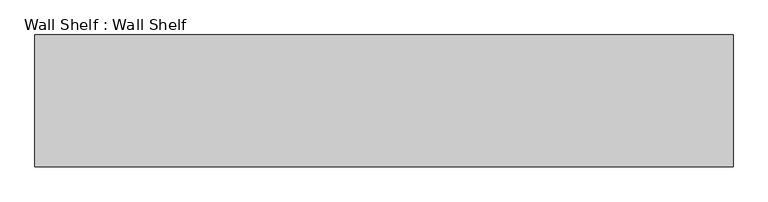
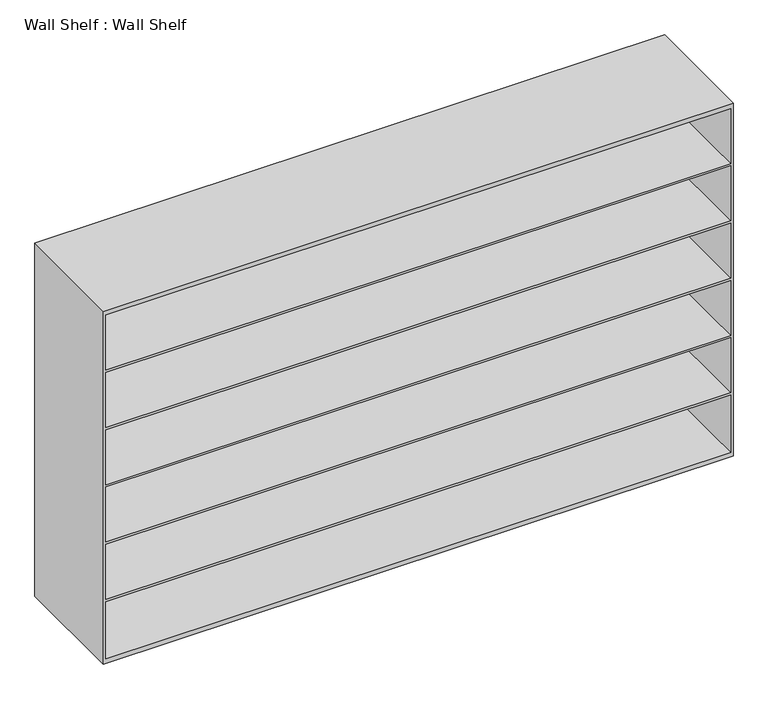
"""IFC4 building model written with IfcOpenShell, lengths in millimetres: furniture geometry, Wall Shelf : Wall Shelf."""

from ifc_helpers import new_model, si_unit, frame, origin, place, context, project, spatial, circle_curve, source, transform, mapped, element, save
from ifc_brep_helpers import plane_surface, cylinder_surface, advanced_brep


def wall_shelf_wall_shelf_4cddb453(model_context):
    return source(origin(), model_context, "Body", "AdvancedBrep", [
        advanced_brep(
        [(1616.075, 304.8, 1930.4), (-1616.075, 304.8, 1930.4), (-1616.075, -304.8, 1930.4), (1616.075, -304.8, 1930.4), (1603.375, -304.8, 1905.0), (-1603.375, -304.8, 1905.0), (-1603.375, 292.1, 1905.0), (1603.375, 292.1, 1905.0), (1616.075, 304.8, 38.1), (1616.075, 304.8, 12.7), (-1616.075, 304.8, 12.7), (-1616.075, 304.8, 38.1), (-1616.075, -304.8, 12.7), (1616.075, -304.8, 12.7), (1603.375, -304.8, 1606.55), (-1603.375, -304.8, 1606.55), (1603.375, -304.8, 38.1), (-1603.375, -304.8, 38.1), (-1603.375, -304.8, 349.25), (1603.375, -304.8, 349.25), (-1603.375, -304.8, 1593.85), (1603.375, -304.8, 1593.85), (1603.375, -304.8, 1295.4), (-1603.375, -304.8, 1295.4), (-1603.375, -304.8, 1282.7), (1603.375, -304.8, 1282.7), (1603.375, -304.8, 984.25), (-1603.375, -304.8, 984.25), (-1603.375, -304.8, 971.55), (1603.375, -304.8, 971.55), (1603.375, -304.8, 673.1), (-1603.375, -304.8, 673.1), (-1603.375, -304.8, 660.4), (1603.375, -304.8, 660.4), (1603.375, -304.8, 361.95), (-1603.375, -304.8, 361.95), (-1590.675, 254.0, 12.7), (-1539.875, 254.0, 12.7), (1539.875, 254.0, 12.7), (1590.675, 254.0, 12.7), (-1590.675, -254.0, 12.7), (-1539.875, -254.0, 12.7), (1539.875, -254.0, 12.7), (1590.675, -254.0, 12.7), (-1603.375, 292.1, 1606.55), (-1603.375, 292.1, 1295.4), (-1603.375, 292.1, 1593.85), (-1603.375, 292.1, 984.25), (-1603.375, 292.1, 1282.7), (-1603.375, 292.1, 673.1), (-1603.375, 292.1, 971.55), (-1603.375, 292.1, 361.95), (-1603.375, 292.1, 660.4), (-1603.375, 292.1, 38.1), (-1603.375, 292.1, 349.25), (1603.375, 292.1, 1606.55), (1603.375, 292.1, 1295.4), (1603.375, 292.1, 1593.85), (1603.375, 292.1, 984.25), (1603.375, 292.1, 1282.7), (1603.375, 292.1, 673.1), (1603.375, 292.1, 971.55), (1603.375, 292.1, 361.95), (1603.375, 292.1, 660.4), (1603.375, 292.1, 38.1), (1603.375, 292.1, 349.25), (-1590.675, 254.0, 0.0), (-1539.875, 254.0, 0.0), (1539.875, 254.0, 0.0), (1590.675, 254.0, 0.0), (-1590.675, -254.0, 0.0), (-1539.875, -254.0, 0.0), (1539.875, -254.0, 0.0), (1590.675, -254.0, 0.0)],
        [
            (0, 1),
            (1, 2),
            (2, 3),
            (3, 0),
            (4, 5),
            (5, 6),
            (6, 7),
            (7, 4),
            (0, 8),
            (8, 9),
            (9, 10),
            (10, 11),
            (11, 1),
            (10, 12),
            (12, 2),
            (12, 13),
            (13, 3),
            (4, 14),
            (14, 15),
            (15, 5),
            (16, 17),
            (17, 18),
            (18, 19),
            (19, 16),
            (20, 21),
            (21, 22),
            (22, 23),
            (23, 20),
            (24, 25),
            (25, 26),
            (26, 27),
            (27, 24),
            (28, 29),
            (29, 30),
            (30, 31),
            (31, 28),
            (32, 33),
            (33, 34),
            (34, 35),
            (35, 32),
            (13, 9),
            (36, 37, circle_curve(frame((-1565.275, 254.0, 12.7), z_axis=(0.0, 0.0, 1.0), x_axis=(1.0, 0.0, 0.0)), 25.4)),
            (37, 36, circle_curve(frame((-1565.275, 254.0, 12.7), z_axis=(0.0, 0.0, 1.0), x_axis=(1.0, 0.0, 0.0)), 25.4)),
            (38, 39, circle_curve(frame((1565.275, 254.0, 12.7), z_axis=(0.0, 0.0, 1.0), x_axis=(1.0, 0.0, 0.0)), 25.4)),
            (39, 38, circle_curve(frame((1565.275, 254.0, 12.7), z_axis=(0.0, 0.0, 1.0), x_axis=(1.0, 0.0, 0.0)), 25.4)),
            (40, 41, circle_curve(frame((-1565.275, -254.0, 12.7), z_axis=(0.0, 0.0, 1.0), x_axis=(1.0, 0.0, 0.0)), 25.4)),
            (41, 40, circle_curve(frame((-1565.275, -254.0, 12.7), z_axis=(0.0, 0.0, 1.0), x_axis=(1.0, 0.0, 0.0)), 25.4)),
            (42, 43, circle_curve(frame((1565.275, -254.0, 12.7), z_axis=(0.0, 0.0, 1.0), x_axis=(1.0, 0.0, 0.0)), 25.4)),
            (43, 42, circle_curve(frame((1565.275, -254.0, 12.7), z_axis=(0.0, 0.0, 1.0), x_axis=(1.0, 0.0, 0.0)), 25.4)),
            (15, 44),
            (44, 6),
            (23, 45),
            (45, 46),
            (46, 20),
            (27, 47),
            (47, 48),
            (48, 24),
            (31, 49),
            (49, 50),
            (50, 28),
            (35, 51),
            (51, 52),
            (52, 32),
            (17, 53),
            (53, 54),
            (54, 18),
            (44, 55),
            (55, 7),
            (45, 56),
            (56, 57),
            (57, 46),
            (47, 58),
            (58, 59),
            (59, 48),
            (49, 60),
            (60, 61),
            (61, 50),
            (51, 62),
            (62, 63),
            (63, 52),
            (53, 64),
            (64, 65),
            (65, 54),
            (55, 14),
            (21, 57),
            (56, 22),
            (25, 59),
            (58, 26),
            (29, 61),
            (60, 30),
            (33, 63),
            (62, 34),
            (64, 16),
            (19, 65),
            (66, 67, circle_curve(frame((-1565.275, 254.0, 0.0), z_axis=(0.0, 0.0, -1.0), x_axis=(1.0, 0.0, 0.0)), 25.4)),
            (67, 66, circle_curve(frame((-1565.275, 254.0, 0.0), z_axis=(0.0, 0.0, -1.0), x_axis=(1.0, 0.0, 0.0)), 25.4)),
            (68, 69, circle_curve(frame((1565.275, 254.0, 0.0), z_axis=(0.0, 0.0, -1.0), x_axis=(1.0, 0.0, 0.0)), 25.4)),
            (69, 68, circle_curve(frame((1565.275, 254.0, 0.0), z_axis=(0.0, 0.0, -1.0), x_axis=(1.0, 0.0, 0.0)), 25.4)),
            (70, 71, circle_curve(frame((-1565.275, -254.0, 0.0), z_axis=(0.0, 0.0, -1.0), x_axis=(1.0, 0.0, 0.0)), 25.4)),
            (71, 70, circle_curve(frame((-1565.275, -254.0, 0.0), z_axis=(0.0, 0.0, -1.0), x_axis=(1.0, 0.0, 0.0)), 25.4)),
            (72, 73, circle_curve(frame((1565.275, -254.0, 0.0), z_axis=(0.0, 0.0, -1.0), x_axis=(1.0, 0.0, 0.0)), 25.4)),
            (73, 72, circle_curve(frame((1565.275, -254.0, 0.0), z_axis=(0.0, 0.0, -1.0), x_axis=(1.0, 0.0, 0.0)), 25.4)),
            (67, 37),
            (36, 66),
            (69, 39),
            (38, 68),
            (71, 41),
            (40, 70),
            (73, 43),
            (42, 72),
        ],
        [
            plane_surface(frame((-1616.075, 304.8, 1930.4), z_axis=(0.0, 0.0, 1.0), x_axis=(-1.0, 0.0, 0.0))),
            plane_surface(frame((-1616.075, 304.8, 1905.0), z_axis=(0.0, 0.0, -1.0), x_axis=(1.0, 0.0, 0.0))),
            plane_surface(frame((1616.075, 304.8, 1930.4), z_axis=(0.0, 1.0, 0.0), x_axis=(0.0, 0.0, -1.0))),
            plane_surface(frame((-1616.075, 304.8, 1930.4), z_axis=(-1.0, 0.0, 0.0), x_axis=(0.0, 0.0, -1.0))),
            plane_surface(frame((-1616.075, -304.8, 1930.4), z_axis=(0.0, -1.0, 0.0), x_axis=(0.0, 0.0, -1.0))),
            plane_surface(frame((1616.075, -304.8, 1930.4), z_axis=(1.0, 0.0, 0.0), x_axis=(0.0, 0.0, -1.0))),
            plane_surface(frame((-1616.075, 304.8, 12.7), z_axis=(0.0, 0.0, -1.0), x_axis=(1.0, 0.0, 0.0))),
            plane_surface(frame((-1603.375, -304.8, 1930.4), z_axis=(1.0, 0.0, 0.0), x_axis=(0.0, 0.0, -1.0))),
            plane_surface(frame((-1603.375, 292.1, 1930.4), z_axis=(0.0, -1.0, 0.0), x_axis=(0.0, 0.0, -1.0))),
            plane_surface(frame((1603.375, 292.1, 1930.4), z_axis=(-1.0, 0.0, 0.0), x_axis=(0.0, 0.0, -1.0))),
            plane_surface(frame((-1616.075, 304.8, 38.1), z_axis=(0.0, 0.0, 1.0), x_axis=(-1.0, 0.0, 0.0))),
            plane_surface(frame((1603.375, -304.8, 1606.55), z_axis=(0.0, 0.0, 1.0), x_axis=(0.0, 1.0, 0.0))),
            plane_surface(frame((-1603.375, -304.8, 1593.85), z_axis=(0.0, 0.0, -1.0), x_axis=(0.0, 1.0, 0.0))),
            plane_surface(frame((1603.375, -304.8, 1295.4), z_axis=(0.0, 0.0, 1.0), x_axis=(0.0, 1.0, 0.0))),
            plane_surface(frame((-1603.375, -304.8, 1282.7), z_axis=(0.0, 0.0, -1.0), x_axis=(0.0, 1.0, 0.0))),
            plane_surface(frame((1603.375, -304.8, 984.25), z_axis=(0.0, 0.0, 1.0), x_axis=(0.0, 1.0, 0.0))),
            plane_surface(frame((-1603.375, -304.8, 971.55), z_axis=(0.0, 0.0, -1.0), x_axis=(0.0, 1.0, 0.0))),
            plane_surface(frame((1603.375, -304.8, 673.1), z_axis=(0.0, 0.0, 1.0), x_axis=(0.0, 1.0, 0.0))),
            plane_surface(frame((-1603.375, -304.8, 660.4), z_axis=(0.0, 0.0, -1.0), x_axis=(0.0, 1.0, 0.0))),
            plane_surface(frame((1603.375, -304.8, 361.95), z_axis=(0.0, 0.0, 1.0), x_axis=(0.0, 1.0, 0.0))),
            plane_surface(frame((-1603.375, -304.8, 349.25), z_axis=(0.0, 0.0, -1.0), x_axis=(0.0, 1.0, 0.0))),
            plane_surface(frame((-1539.875, 254.0, 0.0), z_axis=(0.0, 0.0, -1.0), x_axis=(0.0, -1.0, 0.0))),
            cylinder_surface(frame((-1565.275, 254.0, 0.0), z_axis=(0.0, 0.0, 1.0), x_axis=(1.0, 0.0, 0.0)), 25.4),
            cylinder_surface(frame((1565.275, 254.0, 0.0), z_axis=(0.0, 0.0, 1.0), x_axis=(1.0, 0.0, 0.0)), 25.4),
            cylinder_surface(frame((-1565.275, -254.0, 0.0), z_axis=(0.0, 0.0, 1.0), x_axis=(1.0, 0.0, 0.0)), 25.4),
            cylinder_surface(frame((1565.275, -254.0, 0.0), z_axis=(0.0, 0.0, 1.0), x_axis=(1.0, 0.0, 0.0)), 25.4),
        ],
        [
            (0, [[1, 2, 3, 4]]),
            (1, [[5, 6, 7, 8]]),
            (2, [[-1, 9, 10, 11, 12, 13]]),
            (3, [[-2, -13, -12, 14, 15]]),
            (4, [[-3, -15, 16, 17], [-5, 18, 19, 20], [21, 22, 23, 24], [25, 26, 27, 28], [29, 30, 31, 32], [33, 34, 35, 36], [37, 38, 39, 40]]),
            (5, [[-4, -17, 41, -10, -9]]),
            (6, [[-41, -16, -14, -11], [42, 43], [44, 45], [46, 47], [48, 49]]),
            (7, [[-6, -20, 50, 51]]),
            (7, [[-28, 52, 53, 54]]),
            (7, [[-32, 55, 56, 57]]),
            (7, [[-36, 58, 59, 60]]),
            (7, [[-40, 61, 62, 63]]),
            (7, [[64, 65, 66, -22]]),
            (8, [[-7, -51, 67, 68]]),
            (8, [[-53, 69, 70, 71]]),
            (8, [[-56, 72, 73, 74]]),
            (8, [[-59, 75, 76, 77]]),
            (8, [[-62, 78, 79, 80]]),
            (8, [[81, 82, 83, -65]]),
            (9, [[-8, -68, 84, -18]]),
            (9, [[-26, 85, -70, 86]]),
            (9, [[-30, 87, -73, 88]]),
            (9, [[-34, 89, -76, 90]]),
            (9, [[-38, 91, -79, 92]]),
            (9, [[93, -24, 94, -82]]),
            (10, [[-21, -93, -81, -64]]),
            (11, [[-19, -84, -67, -50]]),
            (12, [[-25, -54, -71, -85]]),
            (13, [[-27, -86, -69, -52]]),
            (14, [[-29, -57, -74, -87]]),
            (15, [[-31, -88, -72, -55]]),
            (16, [[-33, -60, -77, -89]]),
            (17, [[-35, -90, -75, -58]]),
            (18, [[-37, -63, -80, -91]]),
            (19, [[-39, -92, -78, -61]]),
            (20, [[-23, -66, -83, -94]]),
            (21, [[95, 96]]),
            (21, [[97, 98]]),
            (21, [[99, 100]]),
            (21, [[101, 102]]),
            (22, [[-96, 103, -42, 104]]),
            (22, [[-95, -104, -43, -103]]),
            (23, [[-98, 105, -44, 106]]),
            (23, [[-97, -106, -45, -105]]),
            (24, [[-100, 107, -46, 108]]),
            (24, [[-99, -108, -47, -107]]),
            (25, [[-102, 109, -48, 110]]),
            (25, [[-101, -110, -49, -109]]),
        ],
    ),
    ])


if __name__ == "__main__":
    model = new_model("IFC4")
    model_context = context("Model", 3, world=origin())
    ifc_project = project(units=[si_unit("LENGTHUNIT", "METRE", prefix="MILLI")], contexts=[model_context])
    site = spatial("IfcSite", under=ifc_project)
    building = spatial("IfcBuilding", under=site)
    placement = place(None, origin())
    wall_shelf_wall_shelf_shape = wall_shelf_wall_shelf_4cddb453(model_context)
    element("IfcFurniture", 1, ObjectType="Wall Shelf : Wall Shelf", at=placement, inside=building, context=model_context, shape_type="MappedRepresentation", body=[
        mapped(wall_shelf_wall_shelf_shape, transform((0.0, 0.0, 0.0), x_axis=(1.0, 0.0, 0.0), y_axis=(0.0, 1.0, 0.0), z_axis=(0.0, 0.0, 1.0))),
    ])
    save(model, "model.ifc")
